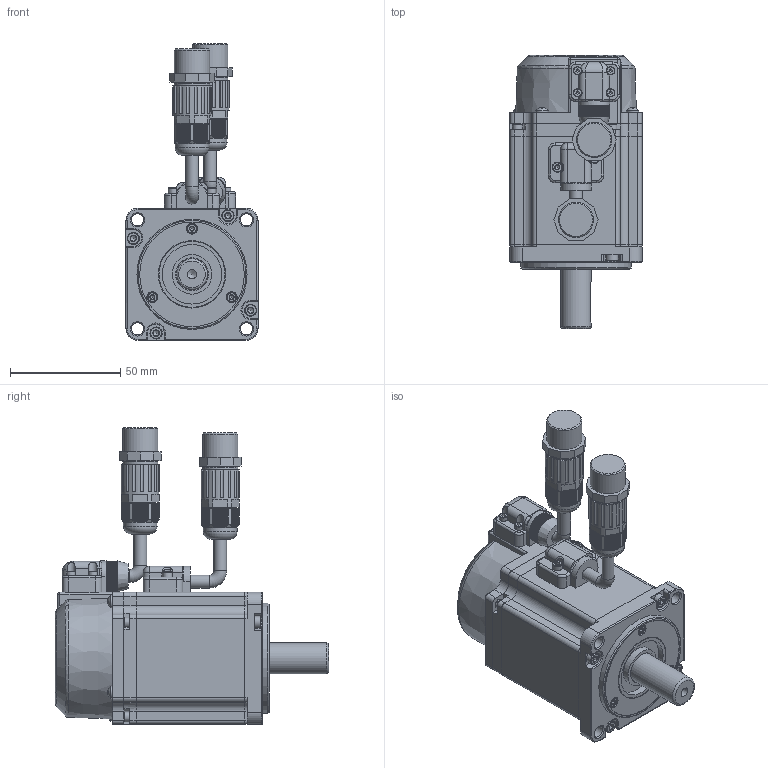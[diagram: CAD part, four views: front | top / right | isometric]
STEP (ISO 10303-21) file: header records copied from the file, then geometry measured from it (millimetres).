
FILE_DESCRIPTION(/* description */ (''),/* implementation_level */ '2;1');
FILE_NAME(/* name */ '60SY-M00630S1-5.stp',/* time_stamp */ '2024-01-04T10:40:24+08:00',/* author */ (''),/* organization */ (''),/* preprocessor_version */ 'ST-DEVELOPER v18.1',/* originating_system */ 'SIEMENS PLM Software NX 2000',/* authorisation */ '');
FILE_SCHEMA (('AUTOMOTIVE_DESIGN { 1 0 10303 214 3 1 1 1 }'));
Products named in the file (1): 60S1电机外形图(00630)
Bounding box: 60 x 124 x 134.76 mm (x, y, z)
Volume: 264324.5 mm3; surface area: 77952.5 mm2
Topology: 34 solids, 37 shells, 2707 faces, 7109 edges, 4520 vertices
Faces by surface type: plane 1736, cylinder 578, sphere 140, cone 137, torus 66, bspline 50
Full cylindrical faces by diameter (mm): 1.5 x4, 2 x8, 2.05 x3, 2.1 x4, 2.38 x9, 2.5 x6, 2.6 x4, 2.874 x4, 2.9 x3, 3.4 x8, 3.5 x4, 3.8 x4, 4.2 x1, 4.5 x9, 5 x3, 5.5 x8, 5.8 x5, 13 x2, 14 x1, 14.8 x1, 15 x1, 15.3 x2, 15.6 x2, 16 x2, 16.1 x2, 17.3 x2, 18 x1, 22.5 x1, 27 x1, 30 x2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
Entity records: 84071 total; most frequent: CARTESIAN_POINT 19982, ORIENTED_EDGE 13638, DIRECTION 12425, EDGE_CURVE 6819, VERTEX_POINT 4458, AXIS2_PLACEMENT_3D 4314, LINE 3797, VECTOR 3797
